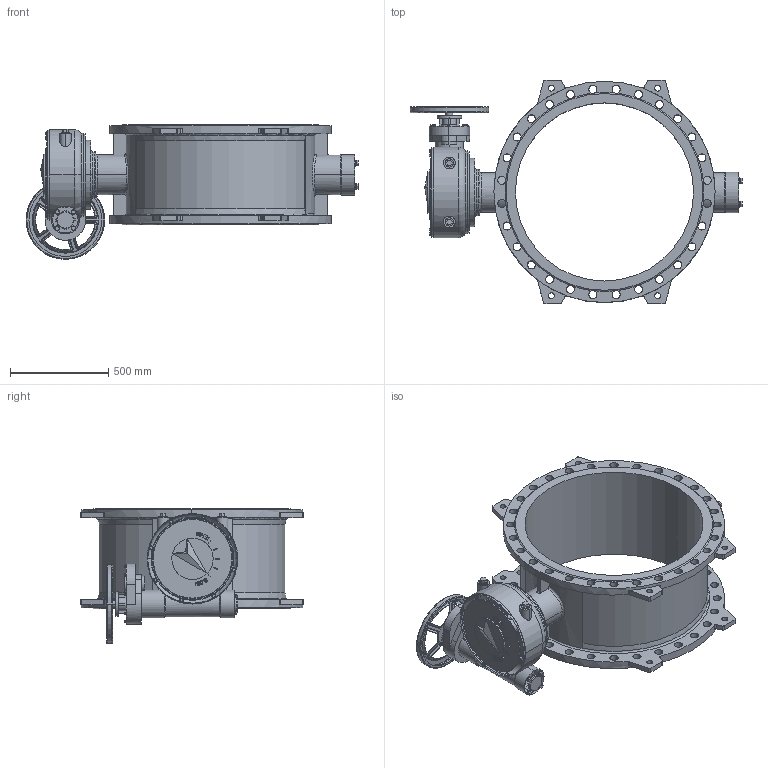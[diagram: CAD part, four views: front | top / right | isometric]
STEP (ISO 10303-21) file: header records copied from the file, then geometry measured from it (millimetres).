
FILE_DESCRIPTION (( 'STEP AP203' ), '1' );
FILE_NAME ('DN900 PN16.STEP', '2014-09-26T01:29:33', ( '微软用户' ), ( 'Sky123.Org' ), 'SwSTEP 2.0', 'SolidWorks 2012', '' );
FILE_SCHEMA (( 'CONFIG_CONTROL_DESIGN' ));
Length unit declared in the file: millimetre
Products named in the file (1): DN900 PN16
Bounding box: 1688.1 x 1135 x 685 mm (x, y, z)
Volume: 116482987.5 mm3; surface area: 6313781.9 mm2
Topology: 2 solids, 3 shells, 1214 faces, 3116 edges, 1962 vertices
Faces by surface type: plane 595, cylinder 353, bspline 209, torus 32, cone 25
Entity records: 59616 total; most frequent: CARTESIAN_POINT 30476, ORIENTED_EDGE 6232, DIRECTION 5832, EDGE_CURVE 3116, AXIS2_PLACEMENT_3D 2195, VERTEX_POINT 1962, LINE 1442, VECTOR 1442
